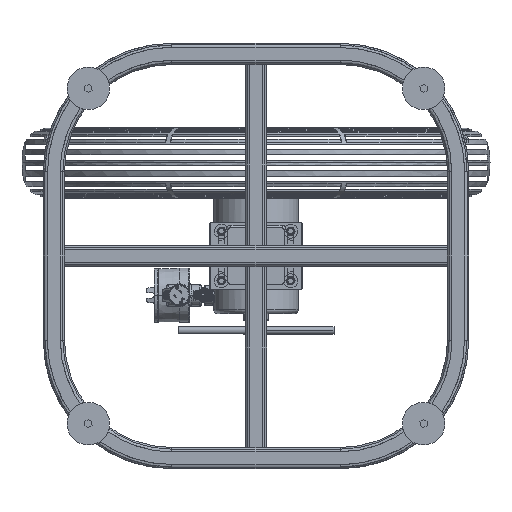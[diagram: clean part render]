
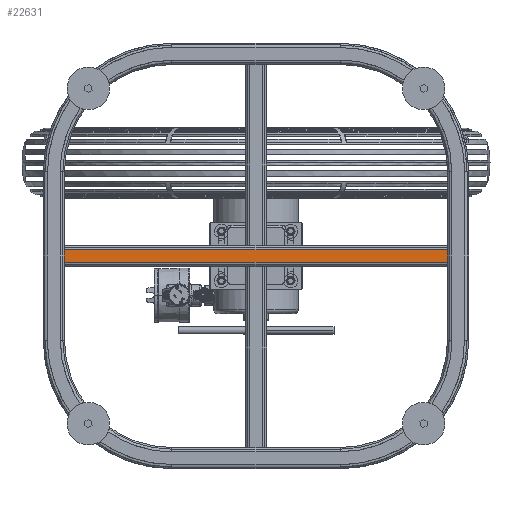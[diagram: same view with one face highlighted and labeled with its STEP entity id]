
A CAD part, front view. The second image highlights one B-rep face of the part: STEP entity #22631.
In plain terms, the highlighted planar face has unit normal (0, -1, 0).
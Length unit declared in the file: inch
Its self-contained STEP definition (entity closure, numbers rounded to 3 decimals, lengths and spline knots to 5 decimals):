
#5443 = FACE_OUTER_BOUND ( 'NONE', #66260, .T. ) ;
#7881 = CARTESIAN_POINT ( 'NONE',  ( -13.5, -0.75, 0.45 ) ) ;
#8333 = CARTESIAN_POINT ( 'NONE',  ( 13.5, -0.75, 0. ) ) ;
#10508 = AXIS2_PLACEMENT_3D ( 'NONE', #24877, #113003, #37515 ) ;
#11925 = VECTOR ( 'NONE', #82661, 39.37008 ) ;
#16049 = VERTEX_POINT ( 'NONE', #113429 ) ;
#18093 = VECTOR ( 'NONE', #71664, 39.37008 ) ;
#21021 = DIRECTION ( 'NONE',  ( 0., 0., -1. ) ) ;
#21406 = VECTOR ( 'NONE', #21021, 39.37008 ) ;
#22631 = ADVANCED_FACE ( 'NONE', ( #5443 ), #87090, .F. ) ;
#24877 = CARTESIAN_POINT ( 'NONE',  ( -14.25, -0.75, -0.45 ) ) ;
#26787 = VERTEX_POINT ( 'NONE', #7881 ) ;
#30357 = CARTESIAN_POINT ( 'NONE',  ( -14.25, -0.75, 0.45 ) ) ;
#37515 = DIRECTION ( 'NONE',  ( 0., 0., 1. ) ) ;
#38106 = CARTESIAN_POINT ( 'NONE',  ( 13.5, -0.75, 0.45 ) ) ;
#45411 = LINE ( 'NONE', #62686, #11925 ) ;
#50143 = ORIENTED_EDGE ( 'NONE', *, *, #62962, .F. ) ;
#53685 = VERTEX_POINT ( 'NONE', #72882 ) ;
#54841 = LINE ( 'NONE', #8333, #21406 ) ;
#62686 = CARTESIAN_POINT ( 'NONE',  ( -13.5, -0.75, -5.94974 ) ) ;
#62962 = EDGE_CURVE ( 'NONE', #26787, #100143, #111978, .T. ) ;
#66260 = EDGE_LOOP ( 'NONE', ( #50143, #91103, #66776, #85327 ) ) ;
#66776 = ORIENTED_EDGE ( 'NONE', *, *, #91930, .F. ) ;
#71664 = DIRECTION ( 'NONE',  ( -1., 0., 0. ) ) ;
#72882 = CARTESIAN_POINT ( 'NONE',  ( 13.5, -0.75, -0.45 ) ) ;
#75759 = EDGE_CURVE ( 'NONE', #16049, #26787, #45411, .T. ) ;
#82661 = DIRECTION ( 'NONE',  ( 0., 0., 1. ) ) ;
#85327 = ORIENTED_EDGE ( 'NONE', *, *, #87118, .F. ) ;
#87090 = PLANE ( 'NONE',  #10508 ) ;
#87118 = EDGE_CURVE ( 'NONE', #100143, #53685, #54841, .T. ) ;
#89029 = LINE ( 'NONE', #159804, #18093 ) ;
#91103 = ORIENTED_EDGE ( 'NONE', *, *, #75759, .F. ) ;
#91930 = EDGE_CURVE ( 'NONE', #53685, #16049, #89029, .T. ) ;
#100143 = VERTEX_POINT ( 'NONE', #38106 ) ;
#105839 = DIRECTION ( 'NONE',  ( 1., 0., 0. ) ) ;
#111978 = LINE ( 'NONE', #30357, #141562 ) ;
#113003 = DIRECTION ( 'NONE',  ( 0., 1., 0. ) ) ;
#113429 = CARTESIAN_POINT ( 'NONE',  ( -13.5, -0.75, -0.45 ) ) ;
#141562 = VECTOR ( 'NONE', #105839, 39.37008 ) ;
#159804 = CARTESIAN_POINT ( 'NONE',  ( -14.25, -0.75, -0.45 ) ) ;
